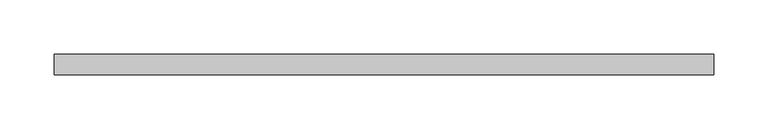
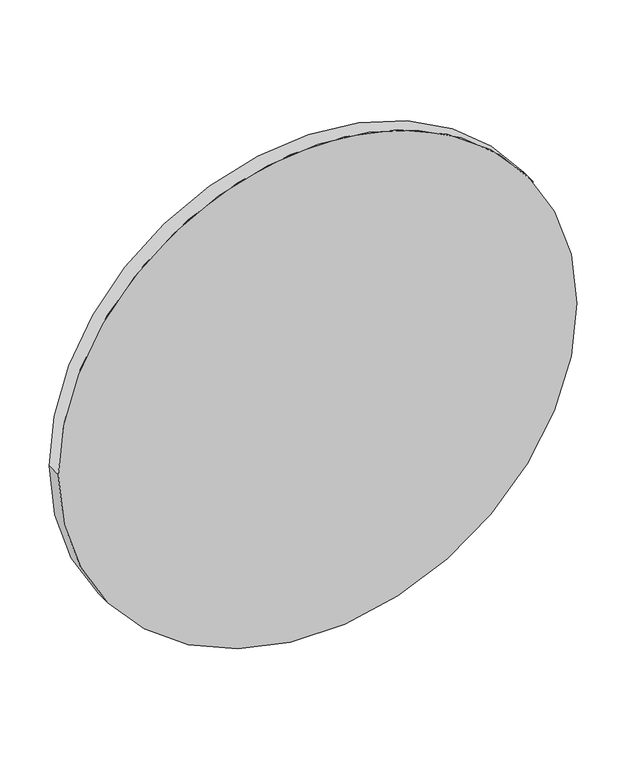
"""IFC4 building model written with IfcOpenShell, lengths in millimetres: proxy geometry, CAMBRIDGE^TABLE 3_2 BASE BOAT-SUB TOP."""

from ifc_helpers import new_model, si_unit, point, frame, frame_2d, origin, place, context, project, spatial, circle_curve, trimmed, segment, composite_curve, outline, extrude, source, transform, mapped, element, save


def generic_models_41ea9b8c(model_context):
    return source(origin(), model_context, "Body", "SweptSolid", [
        extrude(outline(composite_curve([segment(trimmed(circle_curve(frame_2d((-685.8, -762.0)), 304.8), [point((-685.8, -457.2))], [point((-685.8, -1066.8))], False, "CARTESIAN"), True, "CONTINUOUS"), segment(trimmed(circle_curve(frame_2d((-685.8, -762.0)), 304.8), [point((-685.8, -1066.8))], [point((-685.8, -457.2))], False, "CARTESIAN"), True, "CONTINUOUS")], self_intersect=False)), frame((0.0, -19.05, 0.0), z_axis=(0.0, 1.0, 0.0), x_axis=(0.0, 0.0, 1.0)), (0.0, 0.0, 1.0), 19.05),
    ])


if __name__ == "__main__":
    model = new_model("IFC4")
    model_context = context("Model", 3, world=origin())
    ifc_project = project(units=[si_unit("LENGTHUNIT", "METRE", prefix="MILLI")], contexts=[model_context])
    site = spatial("IfcSite", under=ifc_project)
    building = spatial("IfcBuilding", under=site)
    placement = place(None, origin())
    generic_models_shape = generic_models_41ea9b8c(model_context)
    element("IfcBuildingElementProxy", 1, Name="CAMBRIDGE^TABLE 3_2 BASE BOAT-SUB TOP", ObjectType="CAMBRIDGE^TABLE 3_2 BASE BOAT-SUB TOP", at=placement, inside=building, context=model_context, shape_type="MappedRepresentation", body=[
        mapped(generic_models_shape, transform((0.0, 0.0, 0.0), x_axis=(1.0, 0.0, 0.0), y_axis=(0.0, 1.0, 0.0), z_axis=(0.0, 0.0, 1.0))),
    ])
    save(model, "model.ifc")
